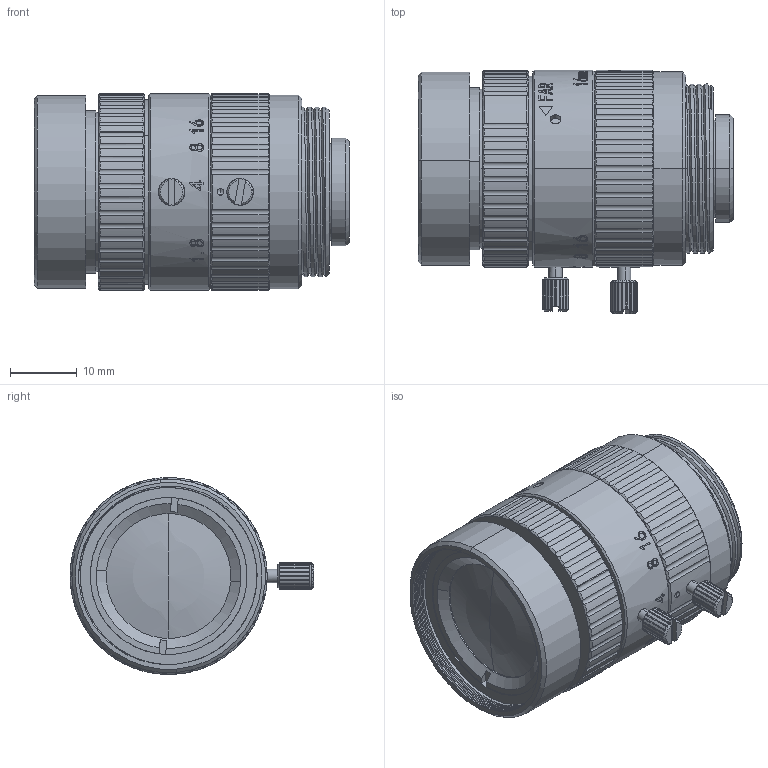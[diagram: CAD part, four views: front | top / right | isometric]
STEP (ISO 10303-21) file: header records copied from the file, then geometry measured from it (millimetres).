
FILE_DESCRIPTION (( 'STEP AP203' ), '1' );
FILE_NAME ('FAU1618MC.HR-H，近摄距-.STEP', '2025-11-03T06:34:31', ( '' ), ( '' ), 'SwSTEP 2.0', 'SolidWorks 2019', '' );
FILE_SCHEMA (( 'CONFIG_CONTROL_DESIGN' ));
Length unit declared in the file: millimetre
Products named in the file (1): FAU1618MC.HR-H，近摄距-
Bounding box: 47.3 x 36.5 x 29.5 mm (x, y, z)
Volume: 27512.2 mm3; surface area: 7558.4 mm2
Topology: 1 solids, 2 shells, 802 faces, 2202 edges, 1458 vertices
Faces by surface type: cylinder 344, plane 310, bspline 108, cone 34, sphere 6
Entity records: 41157 total; most frequent: CARTESIAN_POINT 22249, ORIENTED_EDGE 4388, DIRECTION 3284, EDGE_CURVE 2194, VERTEX_POINT 1456, AXIS2_PLACEMENT_3D 1271, EDGE_LOOP 868, B_SPLINE_CURVE_WITH_KNOTS 838
